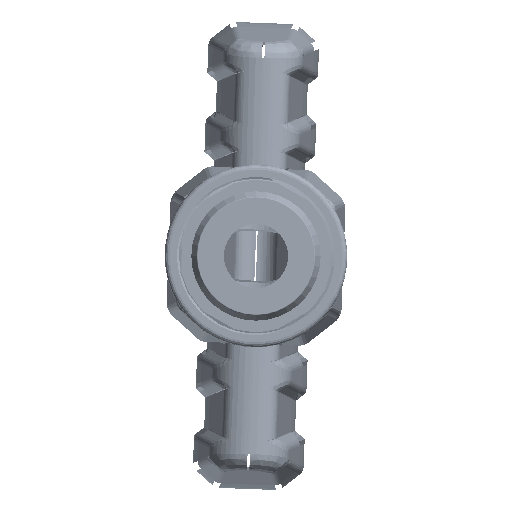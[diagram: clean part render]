
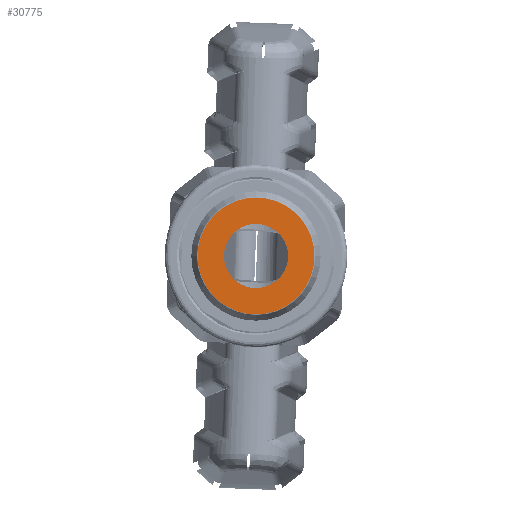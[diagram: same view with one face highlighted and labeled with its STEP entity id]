
A CAD part, front view. The second image highlights one B-rep face of the part: STEP entity #30775.
In plain terms, the highlighted planar face has unit normal (0, -1, 0).
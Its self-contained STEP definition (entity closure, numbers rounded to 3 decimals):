
#3134 = CIRCLE ( 'NONE', #14242, 3.25 ) ;
#4887 = FACE_BOUND ( 'NONE', #82216, .T. ) ;
#7846 = FACE_OUTER_BOUND ( 'NONE', #81464, .T. ) ;
#9029 = ORIENTED_EDGE ( 'NONE', *, *, #25245, .T. ) ;
#9668 = DIRECTION ( 'NONE',  ( 0., -1., 0. ) ) ;
#11297 = PLANE ( 'NONE',  #68380 ) ;
#11507 = DIRECTION ( 'NONE',  ( 0., 1., 0. ) ) ;
#14242 = AXIS2_PLACEMENT_3D ( 'NONE', #78520, #53009, #34973 ) ;
#15703 = AXIS2_PLACEMENT_3D ( 'NONE', #80526, #11507, #42547 ) ;
#16439 = ORIENTED_EDGE ( 'NONE', *, *, #29081, .T. ) ;
#16862 = DIRECTION ( 'NONE',  ( 0.5, 0., 0.866 ) ) ;
#21910 = CARTESIAN_POINT ( 'NONE',  ( -104.215, -75.095, -6.496 ) ) ;
#25245 = EDGE_CURVE ( 'NONE', #72193, #69433, #44820, .T. ) ;
#29081 = EDGE_CURVE ( 'NONE', #69433, #72193, #80285, .T. ) ;
#30671 = CARTESIAN_POINT ( 'NONE',  ( -105.84, -75.095, -9.31 ) ) ;
#30775 = ADVANCED_FACE ( 'NONE', ( #7846, #4887 ), #11297, .F. ) ;
#32830 = VERTEX_POINT ( 'NONE', #40905 ) ;
#34973 = DIRECTION ( 'NONE',  ( 0.5, 0., 0.866 ) ) ;
#35138 = CARTESIAN_POINT ( 'NONE',  ( -105.84, -75.095, -9.31 ) ) ;
#40905 = CARTESIAN_POINT ( 'NONE',  ( -107.465, -75.095, -12.125 ) ) ;
#41651 = AXIS2_PLACEMENT_3D ( 'NONE', #35138, #9668, #60336 ) ;
#42547 = DIRECTION ( 'NONE',  ( 0.5, 0., 0.866 ) ) ;
#44820 = CIRCLE ( 'NONE', #41651, 5.915 ) ;
#44974 = CIRCLE ( 'NONE', #15703, 3.25 ) ;
#45146 = ORIENTED_EDGE ( 'NONE', *, *, #64660, .T. ) ;
#48165 = DIRECTION ( 'NONE',  ( 0., 1., 0. ) ) ;
#50527 = CARTESIAN_POINT ( 'NONE',  ( -102.882, -75.095, -4.188 ) ) ;
#51514 = VERTEX_POINT ( 'NONE', #21910 ) ;
#53009 = DIRECTION ( 'NONE',  ( 0., 1., 0. ) ) ;
#53437 = AXIS2_PLACEMENT_3D ( 'NONE', #30671, #68947, #68673 ) ;
#54800 = CARTESIAN_POINT ( 'NONE',  ( -105.84, -75.095, -9.31 ) ) ;
#58016 = EDGE_CURVE ( 'NONE', #32830, #51514, #44974, .T. ) ;
#60336 = DIRECTION ( 'NONE',  ( 0.5, 0., 0.866 ) ) ;
#64660 = EDGE_CURVE ( 'NONE', #51514, #32830, #3134, .T. ) ;
#68380 = AXIS2_PLACEMENT_3D ( 'NONE', #54800, #48165, #16862 ) ;
#68673 = DIRECTION ( 'NONE',  ( 0.5, 0., 0.866 ) ) ;
#68947 = DIRECTION ( 'NONE',  ( 0., -1., 0. ) ) ;
#69197 = ORIENTED_EDGE ( 'NONE', *, *, #58016, .T. ) ;
#69433 = VERTEX_POINT ( 'NONE', #79129 ) ;
#72193 = VERTEX_POINT ( 'NONE', #50527 ) ;
#78520 = CARTESIAN_POINT ( 'NONE',  ( -105.84, -75.095, -9.31 ) ) ;
#79129 = CARTESIAN_POINT ( 'NONE',  ( -108.797, -75.095, -14.433 ) ) ;
#80285 = CIRCLE ( 'NONE', #53437, 5.915 ) ;
#80526 = CARTESIAN_POINT ( 'NONE',  ( -105.84, -75.095, -9.31 ) ) ;
#81464 = EDGE_LOOP ( 'NONE', ( #9029, #16439 ) ) ;
#82216 = EDGE_LOOP ( 'NONE', ( #69197, #45146 ) ) ;
